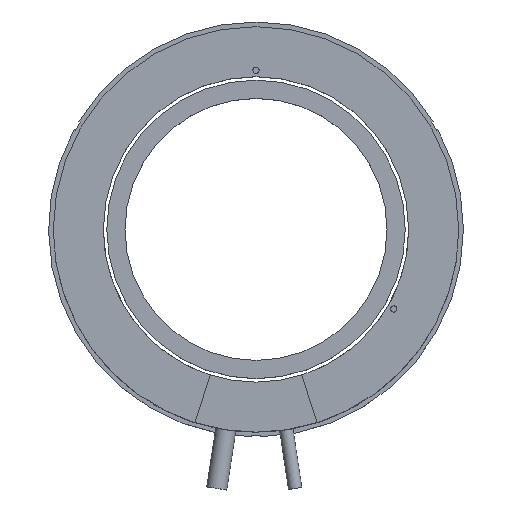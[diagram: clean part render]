
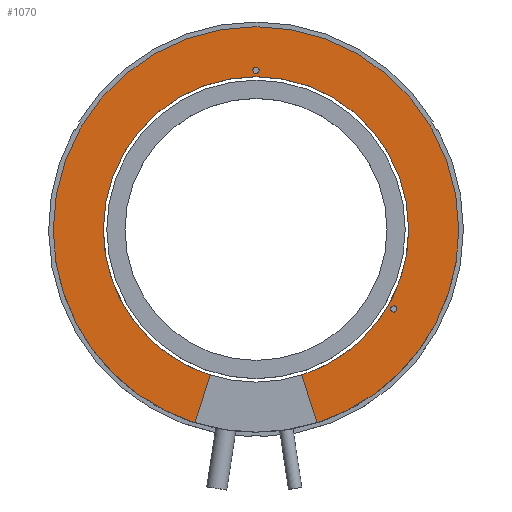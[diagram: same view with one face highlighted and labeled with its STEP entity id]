
A CAD part, top view. The second image highlights one B-rep face of the part: STEP entity #1070.
In plain terms, the highlighted planar face has unit normal (0, 0, 1).
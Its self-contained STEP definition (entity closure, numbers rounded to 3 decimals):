
#9 = AXIS2_PLACEMENT_3D ( 'NONE', #1015, #1368, #780 ) ;
#13 = AXIS2_PLACEMENT_3D ( 'NONE', #850, #858, #1461 ) ;
#24 = CARTESIAN_POINT ( 'NONE',  ( 19.546, -61.992, 17. ) ) ;
#97 = EDGE_CURVE ( 'NONE', #666, #911, #862, .T. ) ;
#101 = CARTESIAN_POINT ( 'NONE',  ( 0., 0., 17. ) ) ;
#103 = EDGE_CURVE ( 'NONE', #828, #890, #254, .T. ) ;
#118 = CARTESIAN_POINT ( 'NONE',  ( 43.167, -25.5, 17. ) ) ;
#133 = LINE ( 'NONE', #598, #620 ) ;
#144 = DIRECTION ( 'NONE',  ( 1., 0., 0. ) ) ;
#147 = DIRECTION ( 'NONE',  ( 0., 0., 1. ) ) ;
#157 = AXIS2_PLACEMENT_3D ( 'NONE', #510, #649, #641 ) ;
#163 = CIRCLE ( 'NONE', #9, 65. ) ;
#223 = DIRECTION ( 'NONE',  ( 1., 0., 0. ) ) ;
#227 = CARTESIAN_POINT ( 'NONE',  ( -19.546, -61.992, 17. ) ) ;
#254 = CIRCLE ( 'NONE', #405, 65. ) ;
#276 = VERTEX_POINT ( 'NONE', #24 ) ;
#288 = DIRECTION ( 'NONE',  ( 1., 0., 0. ) ) ;
#326 = DIRECTION ( 'NONE',  ( 0., 0., 1. ) ) ;
#336 = EDGE_CURVE ( 'NONE', #911, #666, #618, .T. ) ;
#343 = EDGE_LOOP ( 'NONE', ( #545, #767, #630, #496, #749, #1212, #414, #564 ) ) ;
#346 = DIRECTION ( 'NONE',  ( 1., 0., 0. ) ) ;
#362 = CARTESIAN_POINT ( 'NONE',  ( 65., 0., 17. ) ) ;
#373 = FACE_OUTER_BOUND ( 'NONE', #343, .T. ) ;
#400 = PLANE ( 'NONE',  #1256 ) ;
#405 = AXIS2_PLACEMENT_3D ( 'NONE', #1381, #699, #1386 ) ;
#414 = ORIENTED_EDGE ( 'NONE', *, *, #679, .F. ) ;
#453 = CARTESIAN_POINT ( 'NONE',  ( 0., 51., 17. ) ) ;
#456 = EDGE_CURVE ( 'NONE', #1361, #828, #163, .T. ) ;
#458 = DIRECTION ( 'NONE',  ( 0., 0., 1. ) ) ;
#473 = AXIS2_PLACEMENT_3D ( 'NONE', #101, #562, #1376 ) ;
#496 = ORIENTED_EDGE ( 'NONE', *, *, #103, .T. ) ;
#497 = DIRECTION ( 'NONE',  ( 1., 0., 0. ) ) ;
#510 = CARTESIAN_POINT ( 'NONE',  ( 0., 0., 17. ) ) ;
#521 = EDGE_LOOP ( 'NONE', ( #723, #1173 ) ) ;
#531 = CIRCLE ( 'NONE', #13, 1. ) ;
#545 = ORIENTED_EDGE ( 'NONE', *, *, #625, .F. ) ;
#555 = EDGE_CURVE ( 'NONE', #1003, #569, #1132, .T. ) ;
#562 = DIRECTION ( 'NONE',  ( 0., 0., 1. ) ) ;
#564 = ORIENTED_EDGE ( 'NONE', *, *, #555, .F. ) ;
#565 = CARTESIAN_POINT ( 'NONE',  ( 45.167, -25.5, 17. ) ) ;
#569 = VERTEX_POINT ( 'NONE', #574 ) ;
#570 = CIRCLE ( 'NONE', #1152, 48.95 ) ;
#574 = CARTESIAN_POINT ( 'NONE',  ( 48.95, 0., 17. ) ) ;
#587 = LINE ( 'NONE', #1401, #591 ) ;
#591 = VECTOR ( 'NONE', #818, 1000. ) ;
#595 = DIRECTION ( 'NONE',  ( 0., 0., 1. ) ) ;
#598 = CARTESIAN_POINT ( 'NONE',  ( -14.72, -46.684, 17. ) ) ;
#618 = CIRCLE ( 'NONE', #1149, 1. ) ;
#620 = VECTOR ( 'NONE', #1047, 1000. ) ;
#625 = EDGE_CURVE ( 'NONE', #276, #1003, #587, .T. ) ;
#630 = ORIENTED_EDGE ( 'NONE', *, *, #456, .T. ) ;
#641 = DIRECTION ( 'NONE',  ( 1., 0., 0. ) ) ;
#649 = DIRECTION ( 'NONE',  ( 0., 0., 1. ) ) ;
#666 = VERTEX_POINT ( 'NONE', #118 ) ;
#679 = EDGE_CURVE ( 'NONE', #569, #900, #1274, .T. ) ;
#681 = EDGE_CURVE ( 'NONE', #1472, #890, #133, .T. ) ;
#698 = VERTEX_POINT ( 'NONE', #727 ) ;
#699 = DIRECTION ( 'NONE',  ( 0., 0., 1. ) ) ;
#718 = DIRECTION ( 'NONE',  ( 0., 0., 1. ) ) ;
#723 = ORIENTED_EDGE ( 'NONE', *, *, #336, .F. ) ;
#727 = CARTESIAN_POINT ( 'NONE',  ( -1., 51., 17. ) ) ;
#743 = CARTESIAN_POINT ( 'NONE',  ( -14.72, -46.684, 17. ) ) ;
#749 = ORIENTED_EDGE ( 'NONE', *, *, #681, .F. ) ;
#755 = EDGE_CURVE ( 'NONE', #276, #1361, #1360, .T. ) ;
#767 = ORIENTED_EDGE ( 'NONE', *, *, #755, .T. ) ;
#770 = CARTESIAN_POINT ( 'NONE',  ( -65., 0., 17. ) ) ;
#775 = CIRCLE ( 'NONE', #1448, 1. ) ;
#778 = EDGE_CURVE ( 'NONE', #1228, #698, #531, .T. ) ;
#780 = DIRECTION ( 'NONE',  ( 1., 0., 0. ) ) ;
#804 = CARTESIAN_POINT ( 'NONE',  ( -48.95, 0., 17. ) ) ;
#818 = DIRECTION ( 'NONE',  ( -0.301, 0.954, 0. ) ) ;
#828 = VERTEX_POINT ( 'NONE', #770 ) ;
#850 = CARTESIAN_POINT ( 'NONE',  ( 0., 51., 17. ) ) ;
#855 = ORIENTED_EDGE ( 'NONE', *, *, #778, .F. ) ;
#858 = DIRECTION ( 'NONE',  ( 0., 0., 1. ) ) ;
#861 = CARTESIAN_POINT ( 'NONE',  ( 48.95, 0., 17. ) ) ;
#862 = CIRCLE ( 'NONE', #1055, 1. ) ;
#888 = CARTESIAN_POINT ( 'NONE',  ( 1., 51., 17. ) ) ;
#890 = VERTEX_POINT ( 'NONE', #227 ) ;
#900 = VERTEX_POINT ( 'NONE', #804 ) ;
#911 = VERTEX_POINT ( 'NONE', #565 ) ;
#919 = EDGE_LOOP ( 'NONE', ( #855, #1260 ) ) ;
#925 = DIRECTION ( 'NONE',  ( 1., 0., 0. ) ) ;
#951 = EDGE_CURVE ( 'NONE', #698, #1228, #775, .T. ) ;
#979 = FACE_BOUND ( 'NONE', #919, .T. ) ;
#1003 = VERTEX_POINT ( 'NONE', #1140 ) ;
#1015 = CARTESIAN_POINT ( 'NONE',  ( 0., 0., 17. ) ) ;
#1026 = EDGE_CURVE ( 'NONE', #900, #1472, #570, .T. ) ;
#1047 = DIRECTION ( 'NONE',  ( -0.301, -0.954, 0. ) ) ;
#1055 = AXIS2_PLACEMENT_3D ( 'NONE', #1148, #595, #346 ) ;
#1070 = ADVANCED_FACE ( 'NONE', ( #1491, #979, #373 ), #400, .T. ) ;
#1132 = CIRCLE ( 'NONE', #473, 48.95 ) ;
#1140 = CARTESIAN_POINT ( 'NONE',  ( 14.72, -46.684, 17. ) ) ;
#1148 = CARTESIAN_POINT ( 'NONE',  ( 44.167, -25.5, 17. ) ) ;
#1149 = AXIS2_PLACEMENT_3D ( 'NONE', #1313, #1192, #288 ) ;
#1152 = AXIS2_PLACEMENT_3D ( 'NONE', #1317, #147, #497 ) ;
#1169 = CARTESIAN_POINT ( 'NONE',  ( 0., 0., 17. ) ) ;
#1173 = ORIENTED_EDGE ( 'NONE', *, *, #97, .F. ) ;
#1192 = DIRECTION ( 'NONE',  ( 0., 0., 1. ) ) ;
#1212 = ORIENTED_EDGE ( 'NONE', *, *, #1026, .F. ) ;
#1228 = VERTEX_POINT ( 'NONE', #888 ) ;
#1256 = AXIS2_PLACEMENT_3D ( 'NONE', #861, #458, #925 ) ;
#1260 = ORIENTED_EDGE ( 'NONE', *, *, #951, .F. ) ;
#1274 = CIRCLE ( 'NONE', #1371, 48.95 ) ;
#1313 = CARTESIAN_POINT ( 'NONE',  ( 44.167, -25.5, 17. ) ) ;
#1317 = CARTESIAN_POINT ( 'NONE',  ( 0., 0., 17. ) ) ;
#1360 = CIRCLE ( 'NONE', #157, 65. ) ;
#1361 = VERTEX_POINT ( 'NONE', #362 ) ;
#1368 = DIRECTION ( 'NONE',  ( 0., 0., 1. ) ) ;
#1371 = AXIS2_PLACEMENT_3D ( 'NONE', #1169, #718, #144 ) ;
#1376 = DIRECTION ( 'NONE',  ( 1., 0., 0. ) ) ;
#1381 = CARTESIAN_POINT ( 'NONE',  ( 0., 0., 17. ) ) ;
#1386 = DIRECTION ( 'NONE',  ( 1., 0., 0. ) ) ;
#1401 = CARTESIAN_POINT ( 'NONE',  ( 14.72, -46.684, 17. ) ) ;
#1448 = AXIS2_PLACEMENT_3D ( 'NONE', #453, #326, #223 ) ;
#1461 = DIRECTION ( 'NONE',  ( 1., 0., 0. ) ) ;
#1472 = VERTEX_POINT ( 'NONE', #743 ) ;
#1491 = FACE_BOUND ( 'NONE', #521, .T. ) ;
